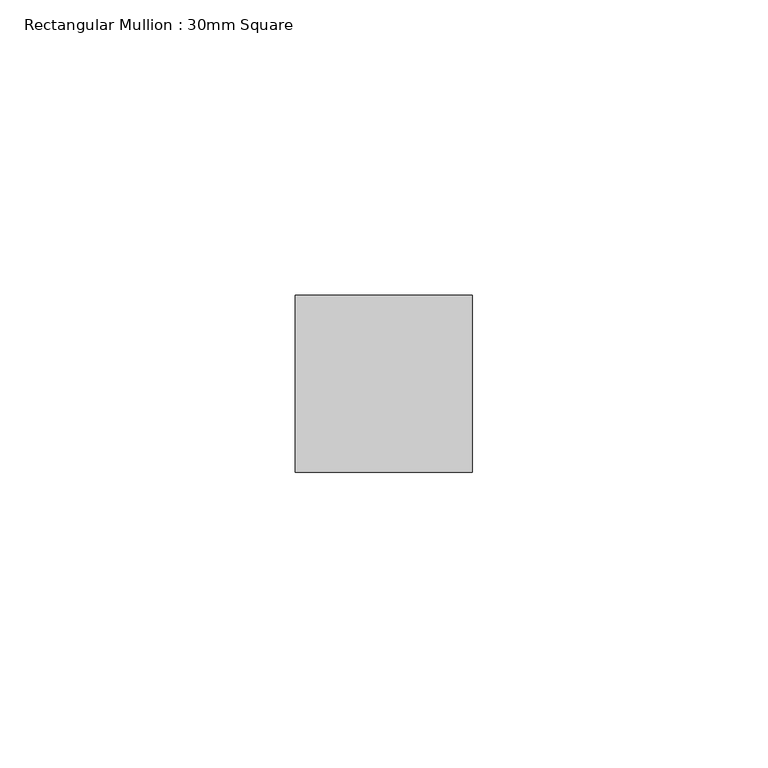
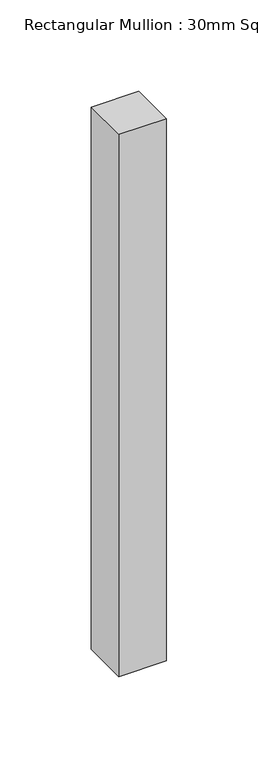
"""IFC4 building model written with IfcOpenShell, lengths in millimetres: member geometry, Rectangular Mullion : 30mm Square."""

import ifcopenshell
import ifcopenshell.guid

model = None  # the IFC model being written
_history = None  # IfcOwnerHistory: only IFC2X3 demands one
_inside = {}  # id of a spatial element -> (the spatial element, [elements in it])
_under = {}  # id of a project, library or spatial element -> (it, [spatial elements below it])
_declared = {}  # id of a project -> (the project, [libraries it declares])
_typed = {}  # id of a type object -> (the type object, [elements of that type])
_made_of = {}  # id of a material, layer set ... -> (it, [elements and type objects made of it])


def new_model(schema):
    """Start an empty IFC model of exactly this schema.

    Asked for "IFC4X3", IfcOpenShell would pick the latest addendum, in which some entities
    have other attributes; the version numbers below select the first issue.
    IFC2X3 requires an IfcOwnerHistory on every rooted entity: one is made here for all.
    """
    global model, _history
    if schema == "IFC4X3":
        model = ifcopenshell.file(schema_version=(4, 3, 0, 0))
    else:
        model = ifcopenshell.file(schema=schema)
    _inside.clear()
    _under.clear()
    _declared.clear()
    _typed.clear()
    _made_of.clear()
    _history = None
    if model.schema == "IFC2X3":
        org = make("IfcOrganization", Name="unknown")
        user = make(
            "IfcPersonAndOrganization",
            ThePerson=make("IfcPerson", FamilyName="unknown"),
            TheOrganization=org,
        )
        app = make(
            "IfcApplication",
            ApplicationDeveloper=org,
            Version="unknown",
            ApplicationFullName="unknown",
            ApplicationIdentifier="unknown",
        )
        _history = make(
            "IfcOwnerHistory",
            OwningUser=user,
            OwningApplication=app,
            ChangeAction="ADDED",
            CreationDate=0,
        )
    return model


def make(cls, **values):
    """One entity of the class cls with the attributes given. An attribute that is None is left unset."""
    return model.create_entity(
        cls, **{name: value for name, value in values.items() if value is not None}
    )


def rooted(cls, **values):
    """An entity with a GlobalId (a new one), such as an element, a storey or a relation."""
    return make(cls, GlobalId=ifcopenshell.guid.new(), OwnerHistory=_history, **values)


def si_unit(unit_type, name, prefix=None):
    """IfcSIUnit, for example si_unit("LENGTHUNIT", "METRE", prefix="MILLI")."""
    return make("IfcSIUnit", UnitType=unit_type, Prefix=prefix, Name=name)


def assignment(units):
    """IfcUnitAssignment: the units of a project."""
    return None if units is None else make("IfcUnitAssignment", Units=units)


def point(xyz):
    """IfcCartesianPoint."""
    return None if xyz is None else make("IfcCartesianPoint", Coordinates=xyz)


def direction(xyz):
    """IfcDirection."""
    return None if xyz is None else make("IfcDirection", DirectionRatios=xyz)


def frame(location, z_axis=None, x_axis=None):
    """IfcAxis2Placement3D, a coordinate frame: its origin and axes. An axis left out is left unset."""
    return make(
        "IfcAxis2Placement3D",
        Location=point(location),
        Axis=direction(z_axis),
        RefDirection=direction(x_axis),
    )


def origin():
    """The frame at (0, 0, 0) with its axes left unset."""
    return frame((0.0, 0.0, 0.0))


def place(relative_to, where):
    """IfcLocalPlacement: puts the frame where relative to a parent placement (None: the world)."""
    return make(
        "IfcLocalPlacement", PlacementRelTo=relative_to, RelativePlacement=where
    )


def context(
    kind, dimensions, precision=None, world=None, true_north=None, identifier=None
):
    """IfcGeometricRepresentationContext, for example the 3D "Model" context."""
    return make(
        "IfcGeometricRepresentationContext",
        ContextIdentifier=identifier,
        ContextType=kind,
        CoordinateSpaceDimension=dimensions,
        Precision=precision,
        WorldCoordinateSystem=world,
        TrueNorth=true_north,
    )


def project(units=None, contexts=None):
    """IfcProject with its units and contexts."""
    return rooted(
        "IfcProject",
        Name="project",
        RepresentationContexts=contexts,
        UnitsInContext=assignment(units),
    )


def spatial(cls, under=None, at=None, **own):
    """A site, building, storey or space (cls), placed at a placement, below another one or the project."""
    s = rooted(cls, ObjectPlacement=at, **own)
    if under is not None:
        _under.setdefault(under.id(), (under, []))[1].append(s)
    return s


def polyline(points):
    """IfcPolyline through the points."""
    return make("IfcPolyline", Points=[point(p) for p in points])


def outline(outer, holes=None, kind="AREA"):
    """IfcArbitraryClosedProfileDef: a profile drawn as a closed curve; with holes, ...WithVoids."""
    if holes is None:
        return make("IfcArbitraryClosedProfileDef", ProfileType=kind, OuterCurve=outer)
    return make(
        "IfcArbitraryProfileDefWithVoids",
        ProfileType=kind,
        OuterCurve=outer,
        InnerCurves=holes,
    )


def extrude(swept, where, along, depth):
    """IfcExtrudedAreaSolid: the profile swept, set in the frame where, extruded along a direction by depth."""
    return make(
        "IfcExtrudedAreaSolid",
        SweptArea=swept,
        Position=where,
        ExtrudedDirection=direction(along),
        Depth=depth,
    )


def shape(context_of_items, identifier, shape_type, items):
    """IfcShapeRepresentation: the items that make up one representation, for example the "Body"."""
    return make(
        "IfcShapeRepresentation",
        ContextOfItems=context_of_items,
        RepresentationIdentifier=identifier,
        RepresentationType=shape_type,
        Items=items,
    )


def source(mapping_origin, context_of_items, identifier, shape_type, items):
    """IfcRepresentationMap: a shape defined once, which mapped items show again and again."""
    return make(
        "IfcRepresentationMap",
        MappingOrigin=mapping_origin,
        MappedRepresentation=shape(context_of_items, identifier, shape_type, items),
    )


def transform(
    local_origin,
    x_axis=None,
    y_axis=None,
    z_axis=None,
    scale=None,
    scale2=None,
    scale3=None,
    uniform=True,
):
    """IfcCartesianTransformationOperator3D, or its non-uniform kind. x_axis, y_axis, z_axis: its Axis1, 2, 3."""
    if uniform:
        return make(
            "IfcCartesianTransformationOperator3D",
            Axis1=direction(x_axis),
            Axis2=direction(y_axis),
            LocalOrigin=point(local_origin),
            Scale=scale,
            Axis3=direction(z_axis),
        )
    return make(
        "IfcCartesianTransformationOperator3DnonUniform",
        Axis1=direction(x_axis),
        Axis2=direction(y_axis),
        LocalOrigin=point(local_origin),
        Scale=scale,
        Axis3=direction(z_axis),
        Scale2=scale2,
        Scale3=scale3,
    )


def mapped(mapping_source, mapping_target):
    """IfcMappedItem: shows the shape of a source again, moved by a transform."""
    return make(
        "IfcMappedItem", MappingSource=mapping_source, MappingTarget=mapping_target
    )


def made_of(thing, what):
    """Note that an element or type object is made of a material, layer set ...; save() writes the relation."""
    if what is not None:
        _made_of.setdefault(what.id(), (what, []))[1].append(thing)
    return thing


def element(
    cls,
    number,
    at=None,
    inside=None,
    cuts=None,
    type_object=None,
    material=None,
    context=None,
    identifier="Body",
    shape_type=None,
    held_by="IfcProductDefinitionShape",
    body=None,
    shapes=None,
    **own,
):
    """One element of the class cls, such as IfcWall. Its Tag is "e" and its number.

    at: its placement. inside: the storey or other place that contains it. cuts: it is an
    opening in that element (IfcRelVoidsElement). A single representation is given by context,
    identifier, shape_type and body (its items); several are given by shapes. held_by: the class
    of the entity that holds the representations. save() writes the other relations.
    """
    e = rooted(cls, Tag="e%d" % number, ObjectPlacement=at, **own)
    if body is not None:
        shapes = [shape(context, identifier, shape_type, body)]
    if shapes is not None:
        e.Representation = make(held_by, Representations=shapes)
    if inside is not None:
        _inside.setdefault(inside.id(), (inside, []))[1].append(e)
    if cuts is not None:
        rooted(
            "IfcRelVoidsElement", RelatingBuildingElement=cuts, RelatedOpeningElement=e
        )
    if type_object is not None:
        _typed.setdefault(type_object.id(), (type_object, []))[1].append(e)
    return made_of(e, material)


def aggregate(whole, parts):
    """IfcRelAggregates: a whole, such as a stair, and the parts it consists of."""
    return rooted("IfcRelAggregates", RelatingObject=whole, RelatedObjects=parts)


def save(model, path):
    """Write the relations noted so far, then the file.

    IfcRelAggregates (storeys below a building ...), IfcRelContainedInSpatialStructure (elements
    in a storey), IfcRelDefinesByType, IfcRelAssociatesMaterial and IfcRelDeclares: one each for
    every whole, place, type object, material and project.
    """
    for whole, parts in _under.values():
        aggregate(whole, parts)
    for where, things in _inside.values():
        rooted(
            "IfcRelContainedInSpatialStructure",
            RelatedElements=things,
            RelatingStructure=where,
        )
    for kind, things in _typed.values():
        rooted("IfcRelDefinesByType", RelatedObjects=things, RelatingType=kind)
    for what, things in _made_of.values():
        rooted("IfcRelAssociatesMaterial", RelatedObjects=things, RelatingMaterial=what)
    for by, libraries in _declared.values():
        rooted("IfcRelDeclares", RelatingContext=by, RelatedDefinitions=libraries)
    model.write(path)


def rectangular_mullion_30mm_square_6b9c2625(model_context):
    return source(origin(), model_context, "Body", "SweptSolid", [
        extrude(outline(polyline([(0.0, 15.0), (0.0, -15.0), (-30.0, -15.0), (-30.0, 15.0), (0.0, 15.0)])), frame((0.0, 0.0, -362.5169828), z_axis=(0.0, 0.0, 1.0), x_axis=(1.0, 0.0, 0.0)), (0.0, 0.0, 1.0), 362.5169828),
    ])


if __name__ == "__main__":
    model = new_model("IFC4")
    model_context = context("Model", 3, world=origin())
    ifc_project = project(units=[si_unit("LENGTHUNIT", "METRE", prefix="MILLI")], contexts=[model_context])
    site = spatial("IfcSite", under=ifc_project)
    building = spatial("IfcBuilding", under=site)
    placement = place(None, origin())
    rectangular_mullion_30mm_square_shape = rectangular_mullion_30mm_square_6b9c2625(model_context)
    element("IfcMember", 1, ObjectType="Rectangular Mullion : 30mm Square", at=placement, inside=building, context=model_context, shape_type="MappedRepresentation", body=[
        mapped(rectangular_mullion_30mm_square_shape, transform((0.0, 0.0, 0.0), x_axis=(1.0, 0.0, 0.0), y_axis=(0.0, 1.0, 0.0), z_axis=(0.0, 0.0, 1.0))),
    ])
    save(model, "model.ifc")
